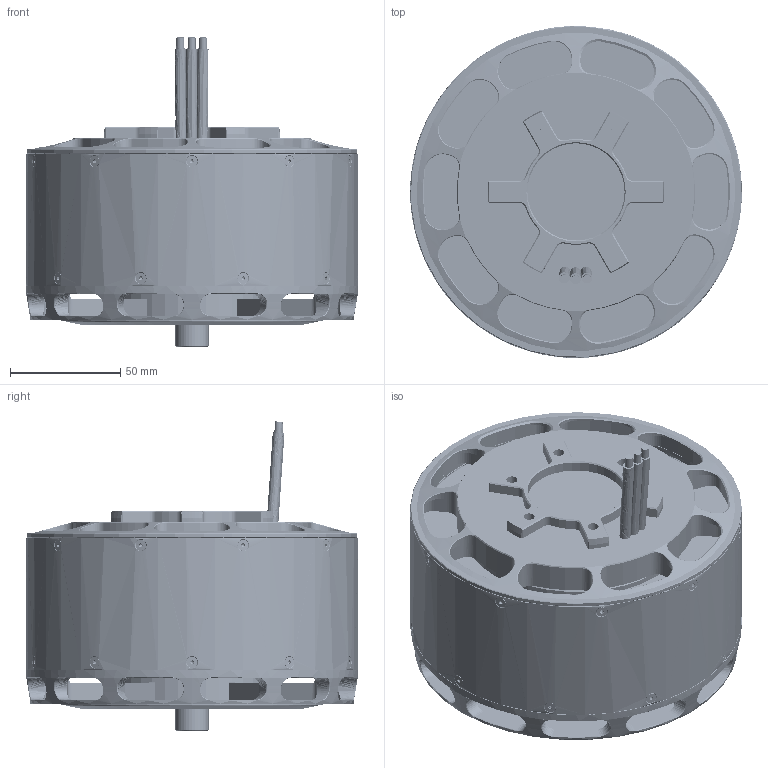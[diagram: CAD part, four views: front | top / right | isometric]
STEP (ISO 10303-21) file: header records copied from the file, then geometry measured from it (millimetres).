
FILE_DESCRIPTION (( 'STEP AP203' ), '1' );
FILE_NAME ('13842-軞蚾-勤俋.STEP', '2024-01-24T09:59:39', ( '' ), ( '' ), 'SwSTEP 2.0', 'SolidWorks 2021', '' );
FILE_SCHEMA (( 'CONFIG_CONTROL_DESIGN' ));
Products named in the file (1): 13842-軞蚾-勤俋
Bounding box: 150.2 x 150.2 x 139.97 mm (x, y, z)
Volume: 1131874.8 mm3; surface area: 186422.1 mm2
Topology: 25 solids, 48 shells, 3891 faces, 10462 edges, 6602 vertices
Faces by surface type: plane 1527, cylinder 1227, cone 528, bspline 467, torus 142
Entity records: 292150 total; most frequent: CARTESIAN_POINT 201289, ORIENTED_EDGE 20736, DIRECTION 16943, EDGE_CURVE 10368, VERTEX_POINT 6602, AXIS2_PLACEMENT_3D 5890, VECTOR 5163, LINE 5163
